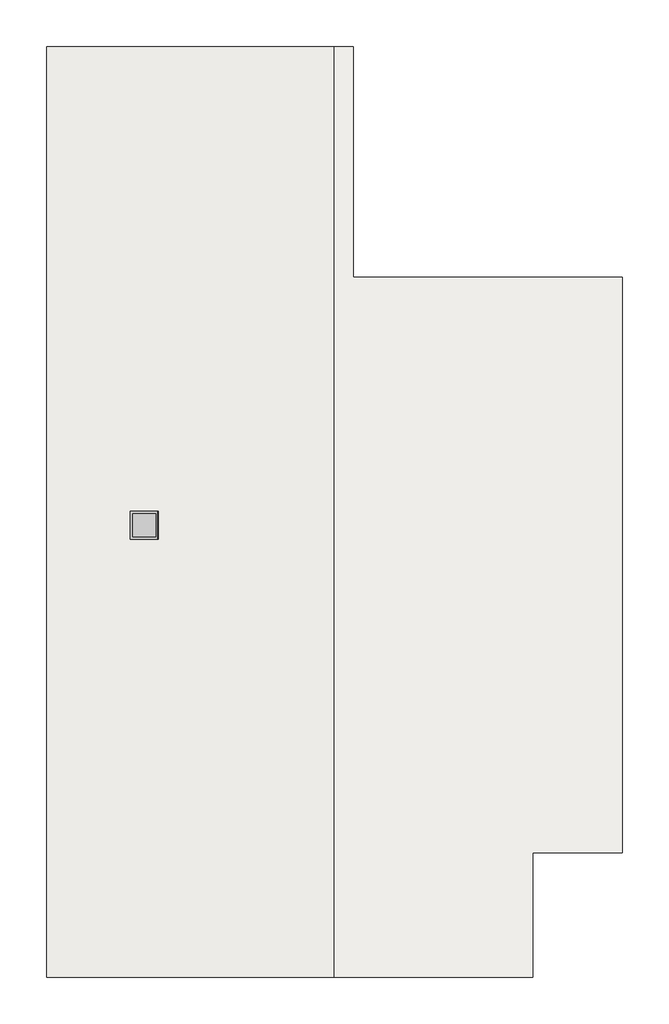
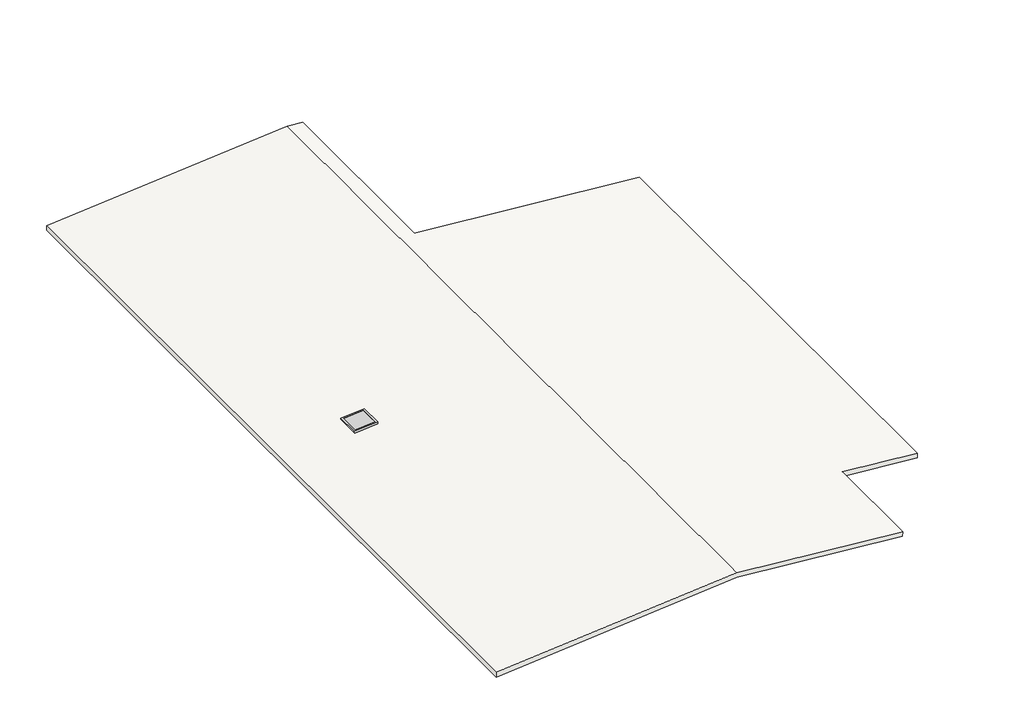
# One storey: 1 proxy, 1 roof.
"""IFC4 building model written with IfcOpenShell, lengths in millimetres."""

from ifc_helpers import new_model, si_unit, origin, place, context, project, spatial, faceted_brep, transform, mapped, element, save
from components import default_1_f02fb337

model = new_model("IFC4")

# Units and contexts
model_context = context("Model", 3, world=origin())
ifc_project = project(units=[si_unit("LENGTHUNIT", "METRE", prefix="MILLI")], contexts=[model_context])

# Site, building, storey
site = spatial("IfcSite", under=ifc_project)
building = spatial("IfcBuilding", under=site)
storey = spatial("IfcBuildingStorey", under=building, Name="U/S of Roof", Elevation=2692.4)

# Proxy
placement = place(None, origin())
default_1_shape = default_1_f02fb337(model_context)
element("IfcBuildingElementProxy", 1, Name="Skylite : Default 1", ObjectType="Skylite : Default 1", at=placement, inside=storey, context=model_context, shape_type="MappedRepresentation", body=[
    mapped(default_1_shape, transform((-4125.4436988, 82.94856, -1103.7349554), x_axis=(0.0, 1.0000000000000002, 0.0), y_axis=(-0.9961946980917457, 0.0, -0.08715574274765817), z_axis=(-0.08715574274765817, 0.0, 0.9961946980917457))),
])

# Roof
element("IfcRoof", 2, ObjectType="Planitar Roof - 5\"", at=placement, inside=storey, context=model_context, shape_type="Brep", body=[
    faceted_brep([(-312.0255931, -9842.1938544, 3245.1752483), (-312.0255931, 10592.1061456, 3245.1752483), (88.0410658, 10592.1061456, 3210.173951), (88.0410658, 5524.8061456, 3210.173951), (6006.2244069, 5524.8061456, 2692.4), (6006.2244069, -7105.3438544, 2692.4), (4028.5101783, -7105.3438544, 2865.4275747), (4028.5101783, -9842.1938544, 2865.4275747), (-6630.2755931, -9842.1938544, 2692.4), (-6630.2755931, 10592.1061456, 2692.4), (-4170.4265258, -221.85144, 2907.6089074), (-4170.4265258, 387.74856, 2907.6089074), (-4777.7068138, 387.74856, 2854.4787666), (-4777.7068138, -221.85144, 2854.4787666), (-312.0255931, 10592.1061456, 3372.6603677), (-312.0255931, -9842.1938544, 3372.6603677), (4039.5789576, -9842.1938544, 2991.9443014), (4039.5789576, -7105.3438544, 2991.9443014), (6006.2244069, -7105.3438544, 2819.8851194), (6006.2244069, 5524.8061456, 2819.8851194), (99.1098452, 5524.8061456, 3336.6906777), (99.1098452, 10592.1061456, 3336.6906777), (-6630.2755931, 10592.1061456, 2819.8851194), (-6630.2755931, -9842.1938544, 2819.8851194), (-4181.4953052, 387.74856, 3034.125634), (-4181.4953052, -221.85144, 3034.125634), (-4788.7755931, -221.85144, 2980.9954933), (-4788.7755931, 387.74856, 2980.9954933)], [[[0, 1, 2, 3, 4, 5, 6, 7]], [[1, 0, 8, 9], [10, 11, 12, 13]], [[14, 15, 16, 17, 18, 19, 20, 21]], [[15, 14, 22, 23], [24, 25, 26, 27]], [[19, 18, 5, 4]], [[23, 22, 9, 8]], [[8, 0, 7, 16, 15, 23]], [[17, 6, 5, 18]], [[6, 17, 16, 7]], [[1, 9, 22, 14, 21, 2]], [[3, 20, 19, 4]], [[20, 3, 2, 21]], [[24, 11, 10, 25]], [[11, 24, 27, 12]], [[12, 27, 26, 13]], [[25, 10, 13, 26]]]),
])

save(model, "model.ifc")
